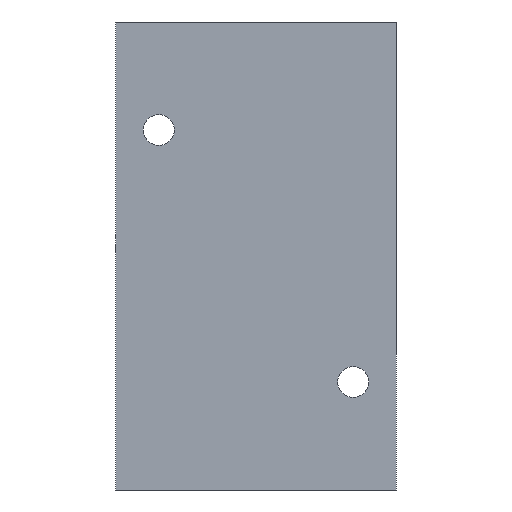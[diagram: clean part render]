
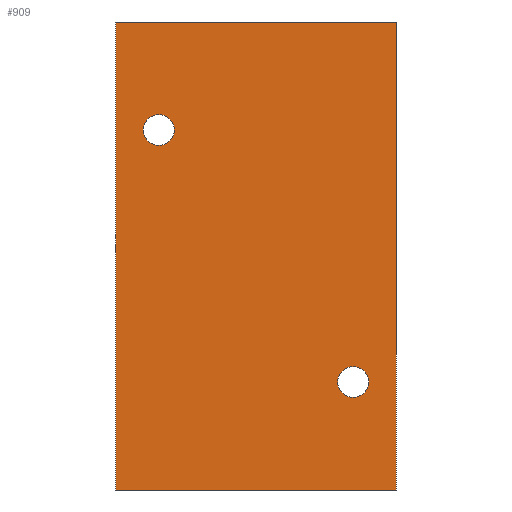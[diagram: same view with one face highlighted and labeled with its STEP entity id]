
A CAD part, front view. The second image highlights one B-rep face of the part: STEP entity #909.
In plain terms, the highlighted planar face has unit normal (0, -1, 0).
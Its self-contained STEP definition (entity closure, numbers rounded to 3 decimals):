
#6 = DIRECTION ( 'NONE',  ( 0., 0., -1. ) ) ;
#10 = VERTEX_POINT ( 'NONE', #1191 ) ;
#57 = EDGE_CURVE ( 'NONE', #10, #372, #1733, .T. ) ;
#79 = ORIENTED_EDGE ( 'NONE', *, *, #112, .F. ) ;
#82 = CARTESIAN_POINT ( 'NONE',  ( 39., -25.5, 65. ) ) ;
#103 = VECTOR ( 'NONE', #1225, 1000. ) ;
#112 = EDGE_CURVE ( 'NONE', #372, #10, #1492, .T. ) ;
#204 = EDGE_CURVE ( 'NONE', #650, #799, #954, .T. ) ;
#241 = LINE ( 'NONE', #265, #676 ) ;
#265 = CARTESIAN_POINT ( 'NONE',  ( -39., -25.5, 65. ) ) ;
#277 = CARTESIAN_POINT ( 'NONE',  ( -39., -25.5, -65. ) ) ;
#326 = FACE_OUTER_BOUND ( 'NONE', #828, .T. ) ;
#329 = EDGE_CURVE ( 'NONE', #1395, #650, #241, .T. ) ;
#336 = CARTESIAN_POINT ( 'NONE',  ( 27., -25.5, -35. ) ) ;
#342 = AXIS2_PLACEMENT_3D ( 'NONE', #1694, #1282, #6 ) ;
#354 = DIRECTION ( 'NONE',  ( 0., -1., 0. ) ) ;
#372 = VERTEX_POINT ( 'NONE', #694 ) ;
#378 = ORIENTED_EDGE ( 'NONE', *, *, #1309, .F. ) ;
#406 = CARTESIAN_POINT ( 'NONE',  ( -27., -25.5, 39.3 ) ) ;
#464 = AXIS2_PLACEMENT_3D ( 'NONE', #1541, #968, #1679 ) ;
#489 = DIRECTION ( 'NONE',  ( 0., 0., -1. ) ) ;
#546 = AXIS2_PLACEMENT_3D ( 'NONE', #1752, #887, #896 ) ;
#650 = VERTEX_POINT ( 'NONE', #277 ) ;
#676 = VECTOR ( 'NONE', #1826, 1000. ) ;
#694 = CARTESIAN_POINT ( 'NONE',  ( 27., -25.5, -39.3 ) ) ;
#711 = VERTEX_POINT ( 'NONE', #1533 ) ;
#716 = CARTESIAN_POINT ( 'NONE',  ( -39., -25.5, 65. ) ) ;
#778 = FACE_BOUND ( 'NONE', #1168, .T. ) ;
#799 = VERTEX_POINT ( 'NONE', #1025 ) ;
#820 = CARTESIAN_POINT ( 'NONE',  ( -39., -25.5, -65. ) ) ;
#828 = EDGE_LOOP ( 'NONE', ( #1585, #1231, #1479, #1402 ) ) ;
#861 = EDGE_CURVE ( 'NONE', #711, #1571, #901, .T. ) ;
#887 = DIRECTION ( 'NONE',  ( 0., 1., 0. ) ) ;
#896 = DIRECTION ( 'NONE',  ( 0., 0., 1. ) ) ;
#901 = CIRCLE ( 'NONE', #342, 4.3 ) ;
#907 = DIRECTION ( 'NONE',  ( 0., 0., -1. ) ) ;
#909 = ADVANCED_FACE ( 'NONE', ( #1613, #778, #326 ), #1333, .F. ) ;
#954 = LINE ( 'NONE', #820, #1730 ) ;
#958 = VERTEX_POINT ( 'NONE', #1504 ) ;
#968 = DIRECTION ( 'NONE',  ( 0., -1., 0. ) ) ;
#1025 = CARTESIAN_POINT ( 'NONE',  ( 39., -25.5, -65. ) ) ;
#1063 = EDGE_LOOP ( 'NONE', ( #79, #1208 ) ) ;
#1108 = VECTOR ( 'NONE', #907, 1000. ) ;
#1168 = EDGE_LOOP ( 'NONE', ( #1325, #378 ) ) ;
#1178 = EDGE_CURVE ( 'NONE', #1395, #958, #1778, .T. ) ;
#1191 = CARTESIAN_POINT ( 'NONE',  ( 27., -25.5, -30.7 ) ) ;
#1208 = ORIENTED_EDGE ( 'NONE', *, *, #57, .F. ) ;
#1225 = DIRECTION ( 'NONE',  ( 1., 0., 0. ) ) ;
#1231 = ORIENTED_EDGE ( 'NONE', *, *, #1248, .F. ) ;
#1248 = EDGE_CURVE ( 'NONE', #958, #799, #1344, .T. ) ;
#1282 = DIRECTION ( 'NONE',  ( 0., -1., 0. ) ) ;
#1308 = DIRECTION ( 'NONE',  ( 0., 0., -1. ) ) ;
#1309 = EDGE_CURVE ( 'NONE', #1571, #711, #1634, .T. ) ;
#1325 = ORIENTED_EDGE ( 'NONE', *, *, #861, .F. ) ;
#1333 = PLANE ( 'NONE',  #546 ) ;
#1344 = LINE ( 'NONE', #82, #1108 ) ;
#1351 = AXIS2_PLACEMENT_3D ( 'NONE', #1474, #1744, #489 ) ;
#1395 = VERTEX_POINT ( 'NONE', #716 ) ;
#1402 = ORIENTED_EDGE ( 'NONE', *, *, #329, .T. ) ;
#1474 = CARTESIAN_POINT ( 'NONE',  ( 27., -25.5, -35. ) ) ;
#1479 = ORIENTED_EDGE ( 'NONE', *, *, #1178, .F. ) ;
#1492 = CIRCLE ( 'NONE', #1670, 4.3 ) ;
#1504 = CARTESIAN_POINT ( 'NONE',  ( 39., -25.5, 65. ) ) ;
#1533 = CARTESIAN_POINT ( 'NONE',  ( -27., -25.5, 30.7 ) ) ;
#1541 = CARTESIAN_POINT ( 'NONE',  ( -27., -25.5, 35. ) ) ;
#1571 = VERTEX_POINT ( 'NONE', #406 ) ;
#1585 = ORIENTED_EDGE ( 'NONE', *, *, #204, .T. ) ;
#1606 = CARTESIAN_POINT ( 'NONE',  ( -39., -25.5, 65. ) ) ;
#1613 = FACE_BOUND ( 'NONE', #1063, .T. ) ;
#1634 = CIRCLE ( 'NONE', #464, 4.3 ) ;
#1663 = DIRECTION ( 'NONE',  ( 1., 0., 0. ) ) ;
#1670 = AXIS2_PLACEMENT_3D ( 'NONE', #336, #354, #1308 ) ;
#1679 = DIRECTION ( 'NONE',  ( 0., 0., -1. ) ) ;
#1694 = CARTESIAN_POINT ( 'NONE',  ( -27., -25.5, 35. ) ) ;
#1730 = VECTOR ( 'NONE', #1663, 1000. ) ;
#1733 = CIRCLE ( 'NONE', #1351, 4.3 ) ;
#1744 = DIRECTION ( 'NONE',  ( 0., -1., 0. ) ) ;
#1752 = CARTESIAN_POINT ( 'NONE',  ( -39., -25.5, 65. ) ) ;
#1778 = LINE ( 'NONE', #1606, #103 ) ;
#1826 = DIRECTION ( 'NONE',  ( 0., 0., -1. ) ) ;
